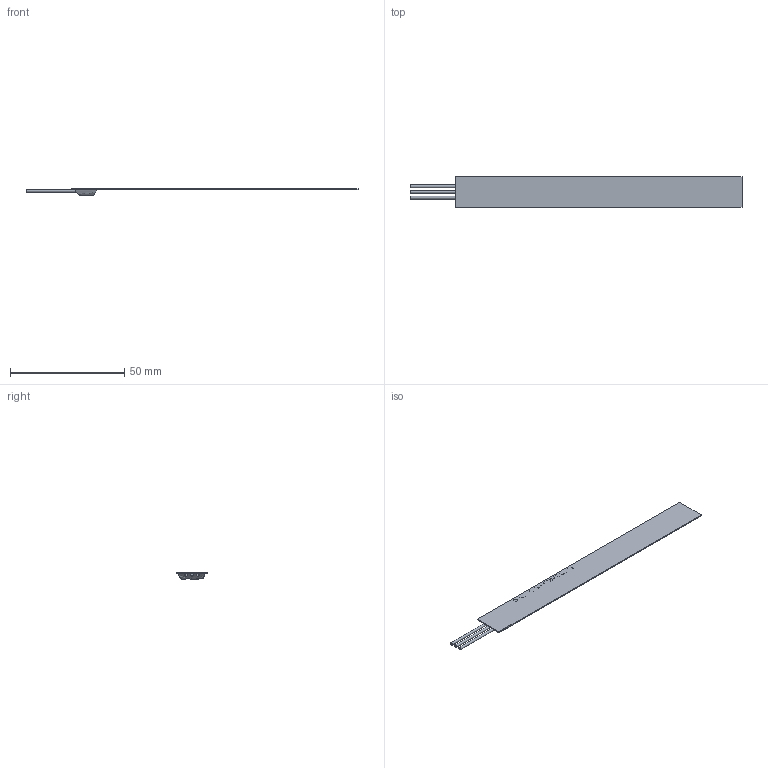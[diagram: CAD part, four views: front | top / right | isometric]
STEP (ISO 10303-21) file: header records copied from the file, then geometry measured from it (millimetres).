
FILE_DESCRIPTION(/* description */ ('UFPMA100A472XWB'),/* implementation_level */ '2;1');
FILE_NAME(/* name */ 'UFPMA100A472XWB',/* time_stamp */ '2017-12-07T12:03:00+01:00',/* author */ ('VISHAY'),/* organization */ ('VISHAY'),/* preprocessor_version */ 'ST-DEVELOPER v16.7',/* originating_system */ 'DEX',/* authorisation */ $);
FILE_SCHEMA (('AUTOMOTIVE_DESIGN { 1 0 10303 214 3 1 1 }','AUTOMOTIVE_DESIGN {1 0 10303 214 3 1 1}'));
Length unit declared in the file: millimetre
Products named in the file (4): UFPMAxxxA472XWB; UFPMA100_Body; Wires; Potting
Assembly tree (3 placements, depth 2):
  UFPMAxxxA472XWB
    UFPMA100_Body
    Wires
    Potting
Bounding box: 145 x 13.5 x 3.03 mm (x, y, z)
Volume: 1068.4 mm3; surface area: 4146.9 mm2
Topology: 5 solids, 5 shells, 241 faces, 588 edges, 392 vertices
Faces by surface type: plane 190, bspline 44, cylinder 7
Full cylindrical faces by diameter (mm): 0.8 x3, 1.2 x3
Entity records: 8782 total; most frequent: CARTESIAN_POINT 3299, ORIENTED_EDGE 1156, DIRECTION 910, EDGE_CURVE 578, LINE 480, VECTOR 480, VERTEX_POINT 392, EDGE_LOOP 286
